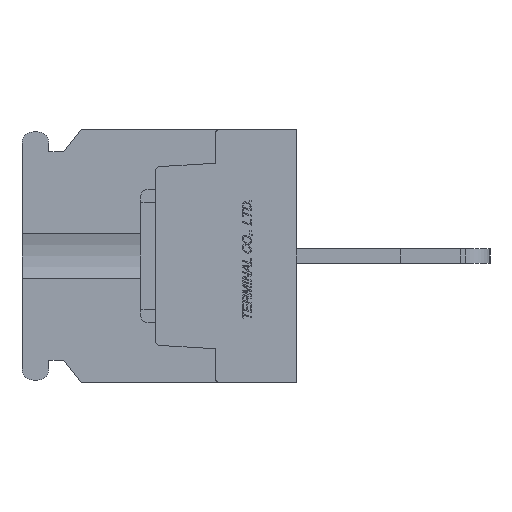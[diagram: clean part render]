
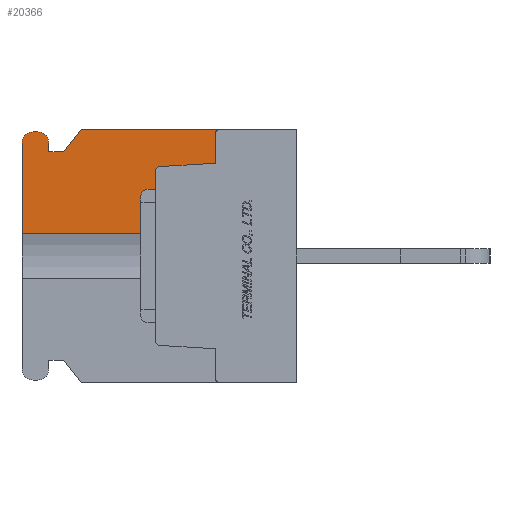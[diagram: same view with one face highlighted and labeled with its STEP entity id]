
A CAD part, left-side view. The second image highlights one B-rep face of the part: STEP entity #20366.
In plain terms, the highlighted planar face has unit normal (-1, 0, 0).
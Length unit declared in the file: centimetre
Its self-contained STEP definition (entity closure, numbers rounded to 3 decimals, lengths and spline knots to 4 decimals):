
#1555=VECTOR('',#23291,1.);
#1557=VECTOR('',#23294,1.);
#1559=VECTOR('',#23301,1.);
#1560=VECTOR('',#23302,1.);
#1561=VECTOR('',#23303,1.);
#1562=VECTOR('',#23304,1.);
#1563=VECTOR('',#23305,1.);
#1564=VECTOR('',#23308,1.);
#1565=VECTOR('',#23311,1.);
#1566=VECTOR('',#23312,1.);
#3797=LINE('',#30001,#1555);
#3799=LINE('',#30005,#1557);
#3801=LINE('',#30011,#1559);
#3802=LINE('',#30013,#1560);
#3803=LINE('',#30015,#1561);
#3804=LINE('',#30017,#1562);
#3805=LINE('',#30019,#1563);
#3806=LINE('',#30023,#1564);
#3807=LINE('',#30027,#1565);
#3808=LINE('',#30029,#1566);
#6095=VERTEX_POINT('',#29994);
#6096=VERTEX_POINT('',#29996);
#6097=VERTEX_POINT('',#30000);
#6098=VERTEX_POINT('',#30004);
#6099=VERTEX_POINT('',#30008);
#6100=VERTEX_POINT('',#30012);
#6101=VERTEX_POINT('',#30014);
#6102=VERTEX_POINT('',#30016);
#6103=VERTEX_POINT('',#30018);
#6104=VERTEX_POINT('',#30020);
#6105=VERTEX_POINT('',#30022);
#6106=VERTEX_POINT('',#30024);
#6107=VERTEX_POINT('',#30026);
#6108=VERTEX_POINT('',#30028);
#7440=CIRCLE('',#34540,0.03);
#7441=CIRCLE('',#34544,0.03);
#7442=CIRCLE('',#34546,0.075);
#7443=CIRCLE('',#34547,0.075);
#9098=EDGE_CURVE('',#6096,#6095,#7440,.T.);
#9101=EDGE_CURVE('',#6095,#6097,#3797,.T.);
#9103=EDGE_CURVE('',#6097,#6098,#3799,.T.);
#9105=EDGE_CURVE('',#6098,#6099,#7441,.T.);
#9106=EDGE_CURVE('',#6100,#6096,#3801,.T.);
#9107=EDGE_CURVE('',#6101,#6099,#3802,.T.);
#9108=EDGE_CURVE('',#6102,#6101,#3803,.T.);
#9109=EDGE_CURVE('',#6103,#6102,#3804,.T.);
#9110=EDGE_CURVE('',#6104,#6103,#3805,.T.);
#9111=EDGE_CURVE('',#6105,#6104,#7442,.T.);
#9112=EDGE_CURVE('',#6106,#6105,#3806,.T.);
#9113=EDGE_CURVE('',#6107,#6106,#7443,.T.);
#9114=EDGE_CURVE('',#6108,#6107,#3807,.T.);
#9115=EDGE_CURVE('',#6108,#6100,#3808,.T.);
#13399=ORIENTED_EDGE('',*,*,#9106,.T.);
#13400=ORIENTED_EDGE('',*,*,#9098,.T.);
#13401=ORIENTED_EDGE('',*,*,#9101,.T.);
#13402=ORIENTED_EDGE('',*,*,#9103,.T.);
#13403=ORIENTED_EDGE('',*,*,#9105,.T.);
#13404=ORIENTED_EDGE('',*,*,#9107,.F.);
#13405=ORIENTED_EDGE('',*,*,#9108,.F.);
#13406=ORIENTED_EDGE('',*,*,#9109,.F.);
#13407=ORIENTED_EDGE('',*,*,#9110,.F.);
#13408=ORIENTED_EDGE('',*,*,#9111,.F.);
#13409=ORIENTED_EDGE('',*,*,#9112,.F.);
#13410=ORIENTED_EDGE('',*,*,#9113,.F.);
#13411=ORIENTED_EDGE('',*,*,#9114,.F.);
#13412=ORIENTED_EDGE('',*,*,#9115,.T.);
#17844=EDGE_LOOP('',(#13399,#13400,#13401,#13402,#13403,#13404,#13405,#13406,
#13407,#13408,#13409,#13410,#13411,#13412));
#19132=FACE_BOUND('',#17844,.T.);
#20366=ADVANCED_FACE('',(#19132),#21384,.F.);
#21384=PLANE('',#34545);
#23286=DIRECTION('',(1.,0.,0.));
#23287=DIRECTION('',(0.,0.,0.03));
#23291=DIRECTION('',(0.,-0.998,0.061));
#23294=DIRECTION('',(0.,0.,1.));
#23298=DIRECTION('',(1.,0.,0.));
#23299=DIRECTION('',(0.,0.,0.03));
#23300=DIRECTION('',(1.,0.,0.));
#23301=DIRECTION('',(0.,0.,1.));
#23302=DIRECTION('',(0.,-1.,0.));
#23303=DIRECTION('',(0.,-0.625,0.781));
#23304=DIRECTION('',(0.,-1.,0.));
#23305=DIRECTION('',(0.,0.,-1.));
#23306=DIRECTION('',(1.,0.,0.));
#23307=DIRECTION('',(0.,0.,-0.075));
#23308=DIRECTION('',(0.,-1.,0.));
#23309=DIRECTION('',(1.,0.,0.));
#23310=DIRECTION('',(0.,0.,-0.075));
#23311=DIRECTION('',(0.,0.,1.));
#23312=DIRECTION('',(0.,-1.,0.));
#29994=CARTESIAN_POINT('',(-1.1,0.9218,0.6017));
#29995=CARTESIAN_POINT('',(-1.1,0.92,0.5718));
#29996=CARTESIAN_POINT('',(-1.1,0.95,0.5718));
#30000=CARTESIAN_POINT('',(-1.1,0.55,0.6245));
#30001=CARTESIAN_POINT('',(-1.1,0.859,0.6056));
#30004=CARTESIAN_POINT('',(-1.1,0.55,0.82));
#30005=CARTESIAN_POINT('',(-1.1,0.55,0.3611));
#30008=CARTESIAN_POINT('',(-1.1,0.52,0.85));
#30009=CARTESIAN_POINT('',(-1.1,0.52,0.82));
#30010=CARTESIAN_POINT('',(-1.1,0.9454,0.));
#30011=CARTESIAN_POINT('',(-1.1,0.95,0.));
#30012=CARTESIAN_POINT('',(-1.1,0.95,0.1521));
#30013=CARTESIAN_POINT('',(-1.1,1.45,0.85));
#30014=CARTESIAN_POINT('',(-1.1,1.45,0.85));
#30015=CARTESIAN_POINT('',(-1.1,1.57,0.7));
#30016=CARTESIAN_POINT('',(-1.1,1.57,0.7));
#30017=CARTESIAN_POINT('',(-1.1,1.67,0.7));
#30018=CARTESIAN_POINT('',(-1.1,1.67,0.7));
#30019=CARTESIAN_POINT('',(-1.1,1.67,0.76));
#30020=CARTESIAN_POINT('',(-1.1,1.67,0.76));
#30021=CARTESIAN_POINT('',(-1.1,1.745,0.76));
#30022=CARTESIAN_POINT('',(-1.1,1.745,0.835));
#30023=CARTESIAN_POINT('',(-1.1,1.775,0.835));
#30024=CARTESIAN_POINT('',(-1.1,1.775,0.835));
#30025=CARTESIAN_POINT('',(-1.1,1.775,0.76));
#30026=CARTESIAN_POINT('',(-1.1,1.85,0.76));
#30027=CARTESIAN_POINT('',(-1.1,1.85,-0.76));
#30028=CARTESIAN_POINT('',(-1.1,1.85,0.1521));
#30029=CARTESIAN_POINT('',(-1.1,1.4,0.1521));
#34540=AXIS2_PLACEMENT_3D('',#29995,#23286,#23287);
#34544=AXIS2_PLACEMENT_3D('',#30009,#23298,#23299);
#34545=AXIS2_PLACEMENT_3D('',#30010,#23300,$);
#34546=AXIS2_PLACEMENT_3D('',#30021,#23306,#23307);
#34547=AXIS2_PLACEMENT_3D('',#30025,#23309,#23310);
